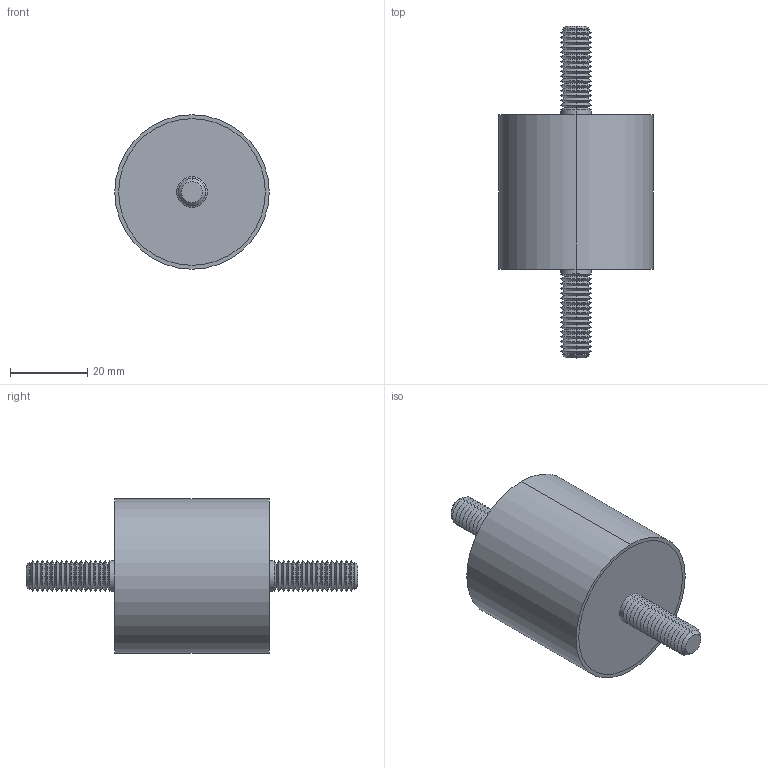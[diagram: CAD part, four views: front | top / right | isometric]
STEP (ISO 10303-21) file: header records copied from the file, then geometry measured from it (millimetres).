
FILE_DESCRIPTION (( 'STEP AP203' ), '1' );
FILE_NAME ('61040.W0406.step', '2019-09-24T22:35:54', ( '' ), ( '' ), 'SwSTEP 2.0', 'SolidWorks 2017', '' );
FILE_SCHEMA (( 'CONFIG_CONTROL_DESIGN' ));
Length unit declared in the file: millimetre
Products named in the file (4): Part1_61040.W0406; 61040.W0406; Part2_61040.W0406; Part3_61040.W0406
Assembly tree (3 placements, depth 2):
  61040.W0406
    Part1_61040.W0406
    Part2_61040.W0406
    Part3_61040.W0406
Bounding box: 40 x 86 x 40 mm (x, y, z)
Volume: 52025.1 mm3; surface area: 14666.8 mm2
Topology: 3 solids, 3 shells, 164 faces, 322 edges, 168 vertices
Faces by surface type: cone 140, cylinder 14, plane 10
Entity records: 4508 total; most frequent: DIRECTION 830, CARTESIAN_POINT 660, ORIENTED_EDGE 644, AXIS2_PLACEMENT_3D 338, EDGE_CURVE 322, EDGE_LOOP 168, VERTEX_POINT 168, CIRCLE 168
